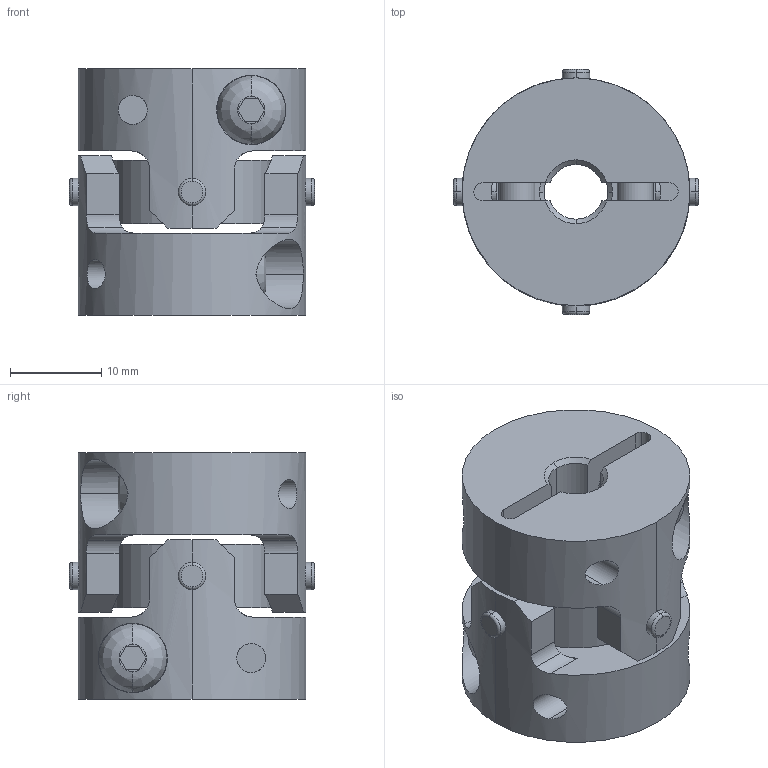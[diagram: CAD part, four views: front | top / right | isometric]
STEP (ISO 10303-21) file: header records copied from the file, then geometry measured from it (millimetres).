
FILE_DESCRIPTION((''),'2;1');
FILE_NAME('UA-25C-6×7.stp','2013-05-16T09:17:20',(''),(''),'AutoCAD STEP 2000i','AutoCAD 2000i',', , ');
FILE_SCHEMA(('CONFIG_CONTROL_DESIGN'));
Length unit declared in the file: millimetre
Products named in the file (6): UA-25C-5×5; 忣兜1; UA-2502-D05-1; BTN-M4; UA-2502-D05; UA25-SEN
Assembly tree (6 placements, depth 3):
  UA-25C-5×5
    忣兜1
    UA-2502-D05-1
      BTN-M4
    UA-2502-D05
      BTN-M4
    UA25-SEN
Bounding box: 26.89 x 26.89 x 27 mm (x, y, z)
Volume: 9294.6 mm3; surface area: 6488.3 mm2
Topology: 1 solids, 1 shells, 206 faces, 554 edges, 364 vertices
Faces by surface type: cylinder 96, plane 78, cone 16, bspline 8, torus 8
Entity records: 8291 total; most frequent: CARTESIAN_POINT 2975, ORIENTED_EDGE 1108, DIRECTION 1064, EDGE_CURVE 554, AXIS2_PLACEMENT_3D 409, VERTEX_POINT 364, VECTOR 246, LINE 246
